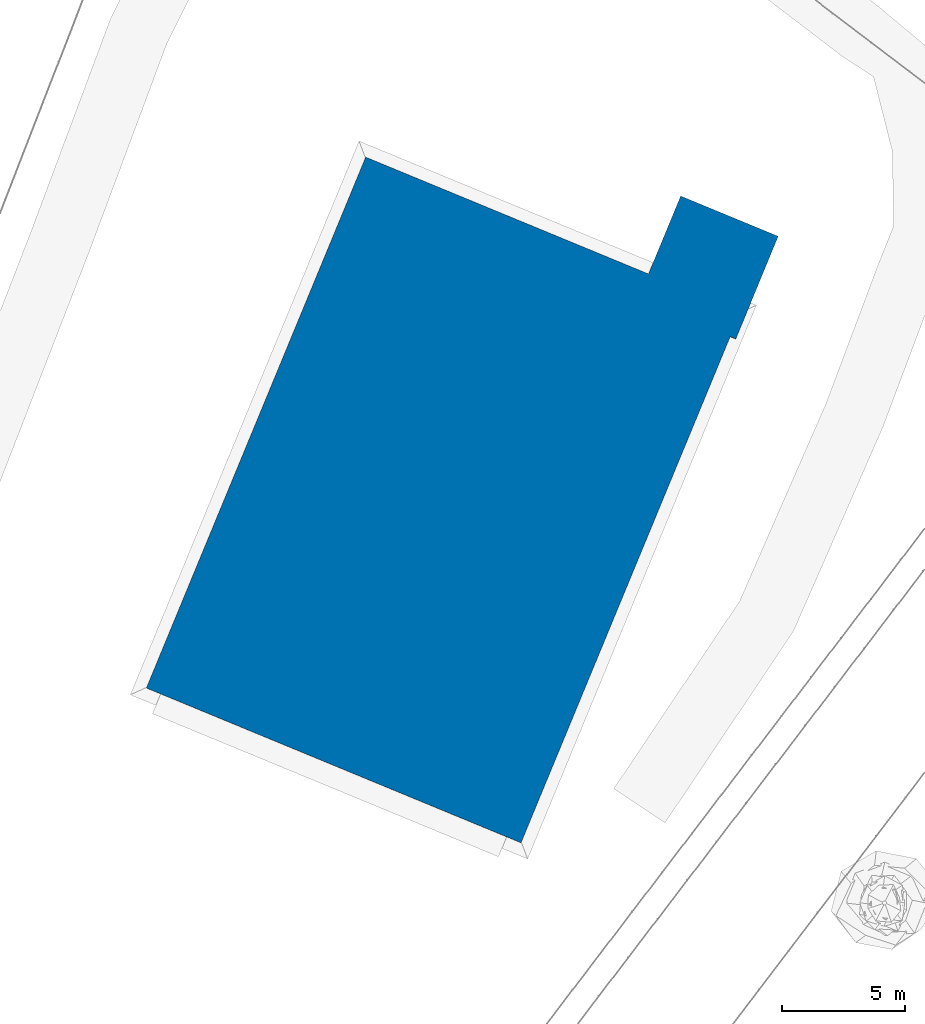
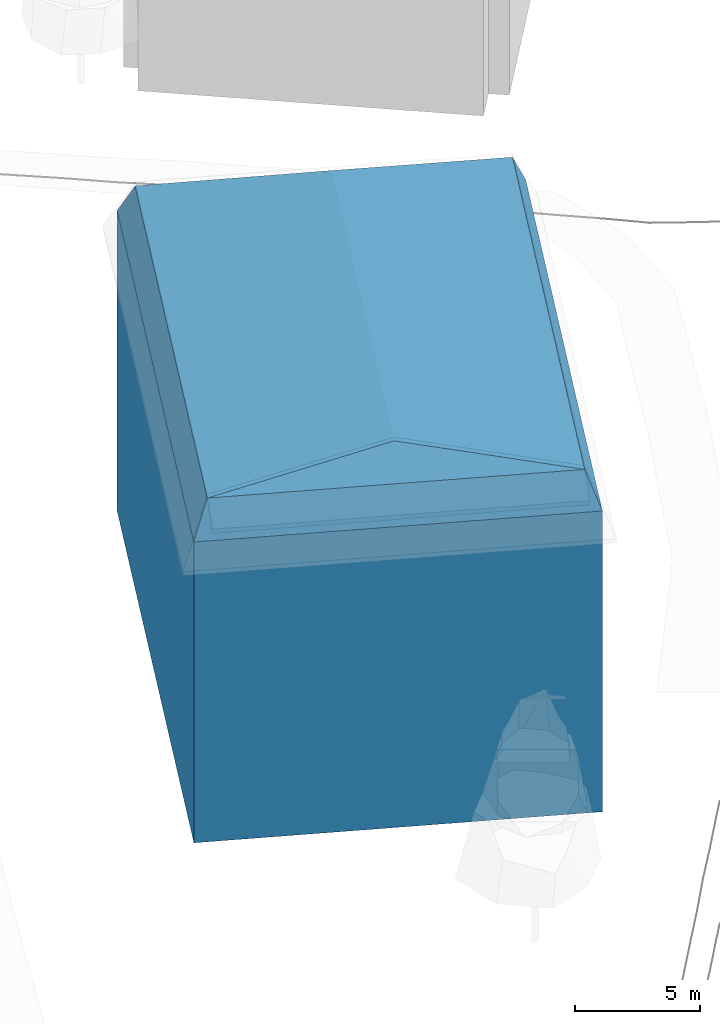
# Not in any storey, part 3 of 88: 1 wall.
"""IFC4 building model written with IfcOpenShell, lengths in metres."""

from ifc_helpers import new_model, si_unit, origin_with_axes, place, context, subcontext, project, spatial, faceted_brep, element, save


model = new_model("IFC4")

# Units and contexts
model_context = context("Model", 3, precision=1e-05, world=origin_with_axes())
body_context = subcontext(model_context, "Body", "Model", "MODEL_VIEW")
ifc_project = project(units=[si_unit("LENGTHUNIT", "METRE"), si_unit("AREAUNIT", "SQUARE_METRE"), si_unit("VOLUMEUNIT", "CUBIC_METRE"), si_unit("PLANEANGLEUNIT", "RADIAN")], contexts=[model_context])

# Sites, building
site_1_placement = place(None, origin_with_axes())
site_1 = spatial("IfcSite", under=ifc_project, at=site_1_placement, Name="CH907857693633", CompositionType="ELEMENT")
site_2_placement = place(None, origin_with_axes())
site_2 = spatial("IfcSite", under=site_1, at=site_2_placement, Name="Buildings", CompositionType="ELEMENT")
building_placement = place(None, origin_with_axes())
building = spatial("IfcBuilding", under=site_2, at=building_placement, Name="Building_5E36CA29", CompositionType="ELEMENT")

# Wall
wall_placement = place(building_placement, origin_with_axes())
element("IfcWall", 1, at=wall_placement, inside=building, Name="Building_5E36CA29_Wall", PredefinedType="NOTDEFINED", context=body_context, shape_type="Brep", body=[
    faceted_brep([(58.2919999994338, 124.170000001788, 19.6956877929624), (65.0439999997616, 120.642000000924, 18.0898877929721), (65.4640000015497, 120.837999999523, 18.8917877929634), (66.6479999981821, 144.39600000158, 19.6956877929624), (61.8920000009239, 134.521999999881, 18.0898877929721), (62.0500000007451, 134.085999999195, 18.8917877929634), (57.4519999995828, 123.778000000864, 18.0898877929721), (58.2919999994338, 124.170000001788, 19.6956877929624), (62.0500000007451, 134.085999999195, 18.8917877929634), (81.5179999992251, 139.004000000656, 18.0577877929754), (80.6719999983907, 138.60000000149, 19.6956877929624), (77.0760000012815, 128.254000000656, 18.0737877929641), (76.6519999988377, 128.054000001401, 18.8917877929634), (77.0760000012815, 128.254000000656, 18.0737877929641), (80.6719999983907, 138.60000000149, 19.6956877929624), (72.6339999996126, 117.506000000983, 18.0897877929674), (72.3159999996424, 118.374000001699, 19.6956877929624), (65.4640000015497, 120.837999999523, 18.8917877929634), (72.3159999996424, 118.374000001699, 19.6956877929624), (76.6519999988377, 128.054000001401, 18.8917877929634), (76.4939999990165, 128.488000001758, 19.6956877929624), (66.3299999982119, 145.263999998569, 18.0898877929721), (66.6479999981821, 144.39600000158, 19.6956877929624), (73.9239999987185, 142.133999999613, 18.0737877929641), (81.5179999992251, 139.004000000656, 18.0577877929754), (74.0819999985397, 141.699999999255, 18.8777877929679), (80.6719999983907, 138.60000000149, 19.6956877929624), (74.0819999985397, 141.699999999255, 18.8777877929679), (73.660000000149, 141.497999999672, 19.6956877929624), (80.6719999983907, 138.60000000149, 19.6956877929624), (73.2159999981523, 140.092000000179, 20.7535877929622), (62.4699999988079, 134.28200000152, 19.6956877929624), (65.7540000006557, 132.129999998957, 20.2256877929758), (66.6479999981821, 144.39600000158, 19.6956877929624), (73.2159999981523, 140.092000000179, 20.7535877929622), (73.660000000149, 141.497999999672, 19.6956877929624), (72.3159999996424, 118.374000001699, 19.6956877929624), (65.9820000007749, 122.579999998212, 20.7535877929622), (65.3040000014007, 121.271999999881, 19.6956877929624), (58.2919999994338, 124.170000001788, 19.6956877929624), (65.9820000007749, 122.579999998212, 20.7535877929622), (65.7540000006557, 132.129999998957, 20.2256877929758), (65.9820000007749, 122.579999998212, 20.7535877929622), (76.4939999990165, 128.488000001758, 19.6956877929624), (73.3280000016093, 130.589999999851, 20.2256877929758), (80.6719999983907, 138.60000000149, 19.6956877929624), (73.2159999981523, 140.092000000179, 20.7535877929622), (73.3280000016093, 130.589999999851, 20.2256877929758), (65.0439999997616, 120.642000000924, 18.0898877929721), (65.0399999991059, 120.633999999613, 10.778387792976), (72.6339999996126, 117.506000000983, 18.0897877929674), (57.4519999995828, 123.778000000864, 18.0898877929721), (65.0399999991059, 120.633999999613, 10.778387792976), (65.0439999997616, 120.642000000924, 18.0898877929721), (65.0399999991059, 120.633999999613, 10.778387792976), (57.4519999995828, 123.778000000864, 18.0898877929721), (57.4499999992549, 123.769999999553, 10.778387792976), (57.4499999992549, 123.769999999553, 10.778387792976), (57.4479999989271, 123.763999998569, 3.46698779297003), (65.0399999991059, 120.633999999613, 10.778387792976), (72.6319999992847, 117.497999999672, 10.778387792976), (65.0399999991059, 120.633999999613, 10.778387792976), (72.6279999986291, 117.491999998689, 3.46698779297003), (57.4479999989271, 123.763999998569, 3.46698779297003), (65.0379999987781, 120.627999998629, 3.46698779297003), (65.0399999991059, 120.633999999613, 10.778387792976), (65.0399999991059, 120.633999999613, 10.778387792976), (72.6319999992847, 117.497999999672, 10.778387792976), (72.6339999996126, 117.506000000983, 18.0897877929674), (65.0379999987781, 120.627999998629, 3.46698779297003), (72.6279999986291, 117.491999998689, 3.46698779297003), (65.0399999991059, 120.633999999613, 10.778387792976), (76.8720000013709, 127.761999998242, 13.2321877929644), (72.6339999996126, 117.506000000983, 18.0897877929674), (74.75, 122.625999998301, 8.34858779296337), (76.8720000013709, 127.761999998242, 13.2321877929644), (81.109999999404, 138.017999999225, 8.37458779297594), (79.1939999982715, 133.381999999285, 15.6459877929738), (81.1020000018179, 137.997999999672, 3.46698779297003), (76.8700000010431, 127.754000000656, 5.77878779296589), (76.8640000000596, 127.743999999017, 3.46698779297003), (81.109999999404, 138.017999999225, 8.09258779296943), (76.8700000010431, 127.754000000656, 5.92078779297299), (76.8700000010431, 127.754000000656, 5.77878779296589), (76.8700000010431, 127.754000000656, 5.92078779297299), (81.109999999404, 138.017999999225, 8.09258779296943), (81.109999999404, 138.017999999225, 8.37458779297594), (81.109999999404, 138.017999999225, 8.37458779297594), (81.5179999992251, 139.004000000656, 8.37458779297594), (81.5179999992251, 139.004000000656, 18.0577877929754), (81.5179999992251, 139.004000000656, 18.0577877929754), (77.7939999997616, 140.543999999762, 8.37458779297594), (73.9239999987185, 142.133999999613, 18.0737877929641), (66.3359999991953, 145.278000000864, 3.46698779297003), (72.0619999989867, 142.903999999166, 13.2321877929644), (72.0659999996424, 142.910000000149, 5.92078779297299), (81.5179999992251, 139.004000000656, 18.0577877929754), (81.5179999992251, 139.004000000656, 8.37458779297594), (77.7939999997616, 140.543999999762, 8.37458779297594), (77.7939999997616, 140.543999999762, 8.37458779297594), (77.7939999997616, 140.543999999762, 3.46698779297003), (72.0659999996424, 142.910000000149, 5.92078779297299), (61.8940000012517, 134.528000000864, 10.778387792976), (61.8920000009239, 134.521999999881, 18.0898877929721), (64.1119999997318, 139.89600000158, 14.4341877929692), (61.8940000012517, 134.528000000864, 10.778387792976), (61.8920000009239, 134.519999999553, 3.46698779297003), (59.6700000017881, 129.14600000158, 7.12268779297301), (75.2120000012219, 129.017999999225, 3.46698779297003), (76.8640000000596, 127.743999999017, 3.46698779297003), (72.6279999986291, 117.491999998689, 3.46698779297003), (76.8640000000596, 127.743999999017, 3.46698779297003), (75.2120000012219, 129.017999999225, 3.46698779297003), (81.1020000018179, 137.997999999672, 3.46698779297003), (79.1000000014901, 143.701999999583, 3.46698779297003), (81.5179999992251, 139.006000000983, 3.46698779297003), (77.7939999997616, 140.543999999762, 3.46698779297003), (77.7939999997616, 140.543999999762, 3.46698779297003), (81.1020000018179, 137.997999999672, 3.46698779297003), (75.2120000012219, 129.017999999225, 3.46698779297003), (81.1020000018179, 137.997999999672, 3.46698779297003), (77.7939999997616, 140.543999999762, 3.46698779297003), (81.5179999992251, 139.006000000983, 3.46698779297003), (81.3299999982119, 137.903999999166, 3.46698779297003), (81.1020000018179, 137.997999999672, 3.46698779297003), (81.3460000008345, 137.945999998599, 3.46698779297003), (81.3460000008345, 137.945999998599, 3.46698779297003), (81.1020000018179, 137.997999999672, 3.46698779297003), (81.5179999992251, 139.006000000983, 3.46698779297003), (81.5179999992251, 139.006000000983, 3.46698779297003), (79.1000000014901, 143.701999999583, 3.46698779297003), (83.0500000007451, 142.070000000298, 3.46698779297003), (81.5179999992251, 139.006000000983, 3.46698779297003), (83.0500000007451, 142.070000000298, 3.46698779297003), (81.3460000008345, 137.945999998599, 3.46698779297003), (67.6200000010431, 132.153999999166, 3.46698779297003), (75.2120000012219, 129.017999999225, 3.46698779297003), (70.1240000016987, 124.822000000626, 3.46698779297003), (67.6200000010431, 132.153999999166, 3.46698779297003), (61.8920000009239, 134.519999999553, 3.46698779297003), (66.9780000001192, 138.715999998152, 3.46698779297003), (81.5179999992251, 139.004000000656, 8.37458779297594), (79.1000000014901, 143.701999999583, 8.37458779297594), (77.7939999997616, 140.543999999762, 8.37458779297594), (83.0500000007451, 142.070000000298, 8.37458779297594), (81.5179999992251, 139.004000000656, 8.37458779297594), (81.3379999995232, 137.923999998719, 8.37458779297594), (79.1000000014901, 143.701999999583, 8.37458779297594), (81.5179999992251, 139.004000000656, 8.37458779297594), (83.0500000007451, 142.070000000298, 8.37458779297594), (81.109999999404, 138.017999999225, 8.37458779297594), (81.3379999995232, 137.923999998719, 8.37458779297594), (81.5179999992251, 139.004000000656, 8.37458779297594), (81.109999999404, 138.017999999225, 8.37458779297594), (81.109999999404, 138.017999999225, 8.09258779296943), (81.3379999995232, 137.923999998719, 8.37458779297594), (81.3379999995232, 137.923999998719, 8.37458779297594), (81.109999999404, 138.017999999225, 8.09258779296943), (81.3299999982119, 137.903999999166, 3.46698779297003), (81.109999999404, 138.017999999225, 8.09258779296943), (81.1020000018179, 137.997999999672, 3.46698779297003), (81.3299999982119, 137.903999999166, 3.46698779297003), (81.3379999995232, 137.923999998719, 8.37458779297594), (81.3460000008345, 137.945999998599, 3.46698779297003), (83.0500000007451, 142.070000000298, 8.37458779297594), (81.3460000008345, 137.945999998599, 3.46698779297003), (83.0500000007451, 142.070000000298, 3.46698779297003), (83.0500000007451, 142.070000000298, 8.37458779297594), (81.3299999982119, 137.903999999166, 3.46698779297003), (81.3460000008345, 137.945999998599, 3.46698779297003), (81.3379999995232, 137.923999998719, 8.37458779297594), (79.1000000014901, 143.701999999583, 8.37458779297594), (83.0500000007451, 142.070000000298, 3.46698779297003), (79.1000000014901, 143.701999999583, 3.46698779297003), (83.0500000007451, 142.070000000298, 3.46698779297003), (79.1000000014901, 143.701999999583, 8.37458779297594), (83.0500000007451, 142.070000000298, 8.37458779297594), (77.7939999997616, 140.543999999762, 8.37458779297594), (79.1000000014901, 143.701999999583, 8.37458779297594), (77.7939999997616, 140.543999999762, 3.46698779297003), (79.1000000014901, 143.701999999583, 8.37458779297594), (79.1000000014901, 143.701999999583, 3.46698779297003), (77.7939999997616, 140.543999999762, 3.46698779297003), (61.8940000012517, 134.528000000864, 10.778387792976), (66.3339999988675, 145.271999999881, 10.778387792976), (64.1160000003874, 139.903999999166, 7.12268779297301), (61.8940000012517, 134.528000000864, 10.778387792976), (57.4499999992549, 123.769999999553, 10.778387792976), (59.6739999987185, 129.153999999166, 14.4341877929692), (67.6200000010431, 132.153999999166, 3.46698779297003), (65.0379999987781, 120.627999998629, 3.46698779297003), (62.5340000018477, 127.958000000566, 3.46698779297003), (66.3359999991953, 145.278000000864, 3.46698779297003), (77.7939999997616, 140.543999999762, 3.46698779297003), (66.9780000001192, 138.715999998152, 3.46698779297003), (81.109999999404, 138.017999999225, 8.37458779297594), (76.8720000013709, 127.761999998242, 13.2321877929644), (76.8700000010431, 127.754000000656, 5.92078779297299), (72.6339999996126, 117.506000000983, 18.0897877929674), (76.8720000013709, 127.761999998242, 13.2321877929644), (77.0760000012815, 128.254000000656, 18.0737877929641), (72.6279999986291, 117.491999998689, 3.46698779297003), (70.1240000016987, 124.822000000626, 3.46698779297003), (75.2120000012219, 129.017999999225, 3.46698779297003), (75.2120000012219, 129.017999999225, 3.46698779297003), (72.7080000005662, 136.348000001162, 3.46698779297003), (77.7939999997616, 140.543999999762, 3.46698779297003), (66.3359999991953, 145.278000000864, 3.46698779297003), (61.8920000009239, 134.519999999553, 3.46698779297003), (64.1160000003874, 139.903999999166, 7.12268779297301), (61.8920000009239, 134.519999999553, 3.46698779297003), (62.5340000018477, 127.958000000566, 3.46698779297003), (57.4479999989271, 123.763999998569, 3.46698779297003), (66.3359999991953, 145.278000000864, 3.46698779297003), (66.9780000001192, 138.715999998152, 3.46698779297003), (61.8920000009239, 134.519999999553, 3.46698779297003), (72.6339999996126, 117.506000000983, 18.0897877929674), (77.0760000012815, 128.254000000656, 18.0737877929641), (76.6519999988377, 128.054000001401, 18.8917877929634), (81.5179999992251, 139.004000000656, 18.0577877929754), (77.0760000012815, 128.254000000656, 18.0737877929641), (79.1939999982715, 133.381999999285, 15.6459877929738), (66.6479999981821, 144.39600000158, 19.6956877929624), (66.3299999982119, 145.263999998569, 18.0898877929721), (61.8920000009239, 134.521999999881, 18.0898877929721), (57.4519999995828, 123.778000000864, 18.0898877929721), (61.8920000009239, 134.521999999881, 18.0898877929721), (59.6739999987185, 129.153999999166, 14.4341877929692), (72.6279999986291, 117.491999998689, 3.46698779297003), (76.8700000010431, 127.754000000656, 5.92078779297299), (74.75, 122.625999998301, 8.34858779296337), (81.1020000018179, 137.997999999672, 3.46698779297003), (81.109999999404, 138.017999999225, 8.09258779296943), (76.8700000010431, 127.754000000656, 5.77878779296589), (76.8700000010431, 127.754000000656, 5.92078779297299), (72.6279999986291, 117.491999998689, 3.46698779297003), (76.8700000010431, 127.754000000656, 5.77878779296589), (61.8920000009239, 134.521999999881, 18.0898877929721), (57.4519999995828, 123.778000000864, 18.0898877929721), (62.0500000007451, 134.085999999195, 18.8917877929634), (66.6479999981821, 144.39600000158, 19.6956877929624), (62.0500000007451, 134.085999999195, 18.8917877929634), (62.4699999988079, 134.28200000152, 19.6956877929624), (72.3159999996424, 118.374000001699, 19.6956877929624), (72.6339999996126, 117.506000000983, 18.0897877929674), (76.6519999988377, 128.054000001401, 18.8917877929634), (76.8700000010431, 127.754000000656, 5.77878779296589), (72.6279999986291, 117.491999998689, 3.46698779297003), (76.8640000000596, 127.743999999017, 3.46698779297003), (62.0500000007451, 134.085999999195, 18.8917877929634), (58.2919999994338, 124.170000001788, 19.6956877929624), (62.4699999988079, 134.28200000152, 19.6956877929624), (73.2159999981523, 140.092000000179, 20.7535877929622), (66.6479999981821, 144.39600000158, 19.6956877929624), (62.4699999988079, 134.28200000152, 19.6956877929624), (76.6519999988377, 128.054000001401, 18.8917877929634), (80.6719999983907, 138.60000000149, 19.6956877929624), (76.4939999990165, 128.488000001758, 19.6956877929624), (65.9820000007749, 122.579999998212, 20.7535877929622), (72.3159999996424, 118.374000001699, 19.6956877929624), (76.4939999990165, 128.488000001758, 19.6956877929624), (62.4699999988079, 134.28200000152, 19.6956877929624), (58.2919999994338, 124.170000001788, 19.6956877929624), (65.7540000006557, 132.129999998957, 20.2256877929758), (73.2159999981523, 140.092000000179, 20.7535877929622), (65.7540000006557, 132.129999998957, 20.2256877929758), (69.6000000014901, 131.335999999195, 20.7535877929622), (76.4939999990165, 128.488000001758, 19.6956877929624), (80.6719999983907, 138.60000000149, 19.6956877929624), (73.3280000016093, 130.589999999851, 20.2256877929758), (65.9820000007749, 122.579999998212, 20.7535877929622), (73.3280000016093, 130.589999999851, 20.2256877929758), (69.6000000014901, 131.335999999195, 20.7535877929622), (65.7540000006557, 132.129999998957, 20.2256877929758), (65.9820000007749, 122.579999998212, 20.7535877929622), (69.6000000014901, 131.335999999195, 20.7535877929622), (73.3280000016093, 130.589999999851, 20.2256877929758), (73.2159999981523, 140.092000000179, 20.7535877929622), (69.6000000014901, 131.335999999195, 20.7535877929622), (81.5179999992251, 139.004000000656, 18.0577877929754), (73.9239999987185, 142.133999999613, 18.0737877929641), (74.0819999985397, 141.699999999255, 18.8777877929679), (66.3299999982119, 145.263999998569, 18.0898877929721), (73.9239999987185, 142.133999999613, 18.0737877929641), (72.0619999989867, 142.903999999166, 13.2321877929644), (62.5340000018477, 127.958000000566, 3.46698779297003), (65.0379999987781, 120.627999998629, 3.46698779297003), (57.4479999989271, 123.763999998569, 3.46698779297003), (70.1240000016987, 124.822000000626, 3.46698779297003), (72.6279999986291, 117.491999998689, 3.46698779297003), (65.0379999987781, 120.627999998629, 3.46698779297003), (58.2919999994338, 124.170000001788, 19.6956877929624), (57.4519999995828, 123.778000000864, 18.0898877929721), (65.0439999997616, 120.642000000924, 18.0898877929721), (73.9239999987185, 142.133999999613, 18.0737877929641), (66.6479999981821, 144.39600000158, 19.6956877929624), (74.0819999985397, 141.699999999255, 18.8777877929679), (65.0439999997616, 120.642000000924, 18.0898877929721), (72.6339999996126, 117.506000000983, 18.0897877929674), (65.4640000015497, 120.837999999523, 18.8917877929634), (58.2919999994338, 124.170000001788, 19.6956877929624), (65.4640000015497, 120.837999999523, 18.8917877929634), (65.3040000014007, 121.271999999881, 19.6956877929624), (73.9239999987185, 142.133999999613, 18.0737877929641), (77.7939999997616, 140.543999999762, 8.37458779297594), (72.0619999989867, 142.903999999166, 13.2321877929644), (66.3299999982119, 145.263999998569, 18.0898877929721), (72.0619999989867, 142.903999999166, 13.2321877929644), (66.3339999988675, 145.271999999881, 10.778387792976), (65.0379999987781, 120.627999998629, 3.46698779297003), (67.6200000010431, 132.153999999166, 3.46698779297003), (70.1240000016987, 124.822000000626, 3.46698779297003), (74.0819999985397, 141.699999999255, 18.8777877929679), (66.6479999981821, 144.39600000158, 19.6956877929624), (73.660000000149, 141.497999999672, 19.6956877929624), (73.2159999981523, 140.092000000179, 20.7535877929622), (80.6719999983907, 138.60000000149, 19.6956877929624), (73.660000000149, 141.497999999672, 19.6956877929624), (65.4640000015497, 120.837999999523, 18.8917877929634), (72.3159999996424, 118.374000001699, 19.6956877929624), (65.3040000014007, 121.271999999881, 19.6956877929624), (65.9820000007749, 122.579999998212, 20.7535877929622), (58.2919999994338, 124.170000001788, 19.6956877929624), (65.3040000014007, 121.271999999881, 19.6956877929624), (74.75, 122.625999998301, 8.34858779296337), (72.6319999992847, 117.497999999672, 10.778387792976), (72.6279999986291, 117.491999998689, 3.46698779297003), (74.75, 122.625999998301, 8.34858779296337), (72.6339999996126, 117.506000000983, 18.0897877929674), (72.6319999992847, 117.497999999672, 10.778387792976), (76.8700000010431, 127.754000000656, 5.92078779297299), (76.8720000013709, 127.761999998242, 13.2321877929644), (74.75, 122.625999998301, 8.34858779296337), (57.4479999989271, 123.763999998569, 3.46698779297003), (57.4499999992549, 123.769999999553, 10.778387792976), (59.6700000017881, 129.14600000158, 7.12268779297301), (72.0619999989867, 142.903999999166, 13.2321877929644), (66.3359999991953, 145.278000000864, 3.46698779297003), (66.3339999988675, 145.271999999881, 10.778387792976), (66.3299999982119, 145.263999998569, 18.0898877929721), (66.3339999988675, 145.271999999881, 10.778387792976), (64.1119999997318, 139.89600000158, 14.4341877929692), (61.8920000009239, 134.519999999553, 3.46698779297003), (57.4479999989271, 123.763999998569, 3.46698779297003), (59.6700000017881, 129.14600000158, 7.12268779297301), (57.4499999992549, 123.769999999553, 10.778387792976), (61.8940000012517, 134.528000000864, 10.778387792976), (59.6700000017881, 129.14600000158, 7.12268779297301), (61.8920000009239, 134.521999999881, 18.0898877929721), (61.8940000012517, 134.528000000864, 10.778387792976), (59.6739999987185, 129.153999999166, 14.4341877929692), (57.4499999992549, 123.769999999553, 10.778387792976), (57.4519999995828, 123.778000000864, 18.0898877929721), (59.6739999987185, 129.153999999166, 14.4341877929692), (66.3339999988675, 145.271999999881, 10.778387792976), (66.3359999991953, 145.278000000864, 3.46698779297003), (64.1160000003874, 139.903999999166, 7.12268779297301), (61.8920000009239, 134.519999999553, 3.46698779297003), (61.8940000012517, 134.528000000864, 10.778387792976), (64.1160000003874, 139.903999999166, 7.12268779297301), (61.8920000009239, 134.521999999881, 18.0898877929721), (66.3299999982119, 145.263999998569, 18.0898877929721), (64.1119999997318, 139.89600000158, 14.4341877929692), (66.3339999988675, 145.271999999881, 10.778387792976), (61.8940000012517, 134.528000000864, 10.778387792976), (64.1119999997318, 139.89600000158, 14.4341877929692), (72.0619999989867, 142.903999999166, 13.2321877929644), (77.7939999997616, 140.543999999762, 8.37458779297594), (72.0659999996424, 142.910000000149, 5.92078779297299), (77.7939999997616, 140.543999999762, 3.46698779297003), (66.3359999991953, 145.278000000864, 3.46698779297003), (72.0659999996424, 142.910000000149, 5.92078779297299), (67.6200000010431, 132.153999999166, 3.46698779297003), (66.9780000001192, 138.715999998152, 3.46698779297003), (72.7080000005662, 136.348000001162, 3.46698779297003), (75.2120000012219, 129.017999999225, 3.46698779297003), (67.6200000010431, 132.153999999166, 3.46698779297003), (72.7080000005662, 136.348000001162, 3.46698779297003), (66.9780000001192, 138.715999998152, 3.46698779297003), (77.7939999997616, 140.543999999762, 3.46698779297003), (72.7080000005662, 136.348000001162, 3.46698779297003), (61.8920000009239, 134.519999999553, 3.46698779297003), (67.6200000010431, 132.153999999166, 3.46698779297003), (62.5340000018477, 127.958000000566, 3.46698779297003), (81.109999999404, 138.017999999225, 8.37458779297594), (81.5179999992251, 139.004000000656, 18.0577877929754), (79.1939999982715, 133.381999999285, 15.6459877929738), (77.0760000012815, 128.254000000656, 18.0737877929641), (76.8720000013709, 127.761999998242, 13.2321877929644), (79.1939999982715, 133.381999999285, 15.6459877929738)], [[[0, 1, 2]], [[3, 4, 5]], [[6, 7, 8]], [[9, 10, 11]], [[12, 13, 14]], [[15, 16, 17]], [[18, 19, 20]], [[21, 22, 23]], [[24, 25, 26]], [[27, 28, 29]], [[30, 31, 32]], [[33, 34, 35]], [[36, 37, 38]], [[39, 40, 41]], [[42, 43, 44]], [[45, 46, 47]], [[48, 49, 50]], [[51, 52, 53]], [[54, 55, 56]], [[57, 58, 59]], [[60, 61, 62]], [[63, 64, 65]], [[66, 67, 68]], [[69, 70, 71]], [[72, 73, 74]], [[75, 76, 77]], [[78, 79, 80]], [[81, 82, 83]], [[84, 85, 86]], [[87, 88, 89]], [[90, 91, 92]], [[93, 94, 95]], [[96, 97, 98]], [[99, 100, 101]], [[102, 103, 104]], [[105, 106, 107]], [[108, 109, 110]], [[111, 112, 113]], [[114, 115, 116]], [[117, 118, 119]], [[120, 121, 122]], [[123, 124, 125]], [[126, 127, 128]], [[129, 130, 131]], [[132, 133, 134]], [[135, 136, 137]], [[138, 139, 140]], [[141, 142, 143]], [[144, 145, 146]], [[147, 148, 149]], [[150, 151, 152]], [[153, 154, 155]], [[156, 157, 158]], [[159, 160, 161]], [[162, 163, 164]], [[165, 166, 167]], [[168, 169, 170]], [[171, 172, 173]], [[174, 175, 176]], [[177, 178, 179]], [[180, 181, 182]], [[183, 184, 185]], [[186, 187, 188]], [[189, 190, 191]], [[192, 193, 194]], [[195, 196, 197]], [[198, 199, 200]], [[201, 202, 203]], [[204, 205, 206]], [[207, 208, 209]], [[210, 211, 212]], [[213, 214, 215]], [[216, 217, 218]], [[219, 220, 221]], [[222, 223, 224]], [[225, 226, 227]], [[228, 229, 230]], [[231, 232, 233]], [[234, 235, 236]], [[237, 238, 239]], [[240, 241, 242]], [[243, 244, 245]], [[246, 247, 248]], [[249, 250, 251]], [[252, 253, 254]], [[255, 256, 257]], [[258, 259, 260]], [[261, 262, 263]], [[264, 265, 266]], [[267, 268, 269]], [[270, 271, 272]], [[273, 274, 275]], [[276, 277, 278]], [[279, 280, 281]], [[282, 283, 284]], [[285, 286, 287]], [[288, 289, 290]], [[291, 292, 293]], [[294, 295, 296]], [[297, 298, 299]], [[300, 301, 302]], [[303, 304, 305]], [[306, 307, 308]], [[309, 310, 311]], [[312, 313, 314]], [[315, 316, 317]], [[318, 319, 320]], [[321, 322, 323]], [[324, 325, 326]], [[327, 328, 329]], [[330, 331, 332]], [[333, 334, 335]], [[336, 337, 338]], [[339, 340, 341]], [[342, 343, 344]], [[345, 346, 347]], [[348, 349, 350]], [[351, 352, 353]], [[354, 355, 356]], [[357, 358, 359]], [[360, 361, 362]], [[363, 364, 365]], [[366, 367, 368]], [[369, 370, 371]], [[372, 373, 374]], [[375, 376, 377]], [[378, 379, 380]], [[381, 382, 383]], [[384, 385, 386]], [[387, 388, 389]]]),
])

save(model, "model.ifc")
